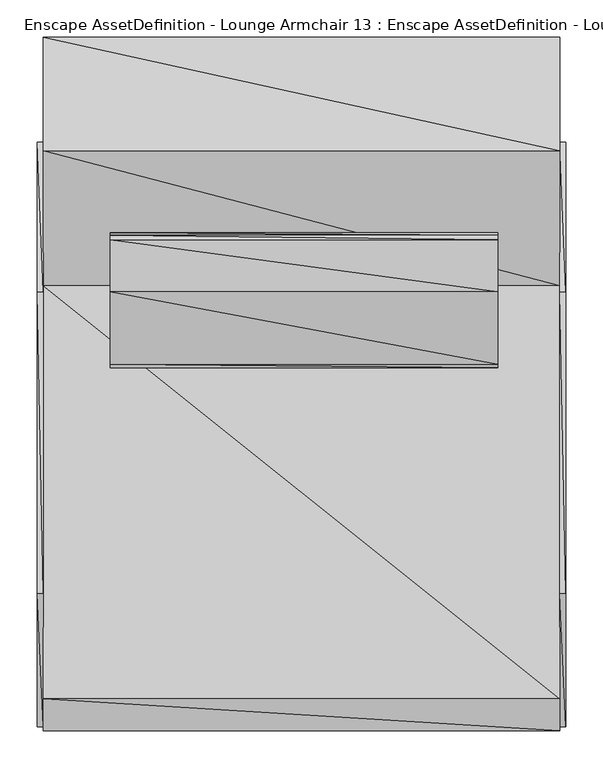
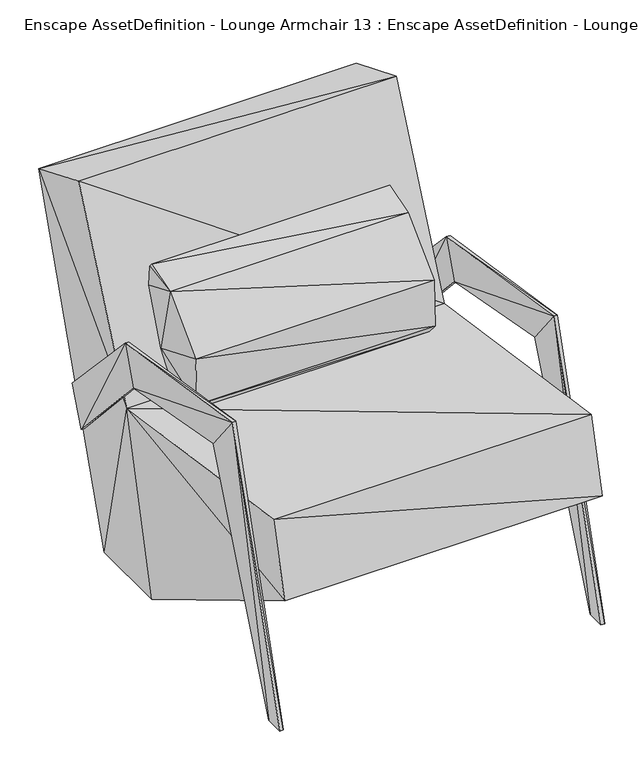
"""IFC4 building model written with IfcOpenShell, lengths in millimetres: geographic element geometry, Enscape AssetDefinition - Lounge Armchair 13 : Enscape AssetDefinition - Lounge Armchair 13."""

from ifc_helpers import new_model, si_unit, origin, place, context, project, spatial, faceted_brep, source, transform, mapped, element, save


def enscape_assetdefinition_lounge_armchair_13_enscape_2bcb44b3(model_context):
    return source(origin(), model_context, "Body", "Brep", [
        faceted_brep([(-348.8843441, 40.526554, 0.0), (344.0619707, 220.3112841, 0.0), (344.0619707, 40.526554, 0.0), (-348.8843441, 220.3112841, 0.0), (344.0609872, 468.7161148, 735.1576686), (344.0619707, 135.1372004, 383.7051392), (-348.8843441, -461.7738128, 301.4784455), (344.0609872, -461.7738128, 301.4784455), (-348.8843441, 135.1372004, 383.7051392), (-348.8843441, 468.7161148, 735.1576686), (344.0619707, 316.3796365, 798.2881069), (-348.8843441, 316.3796365, 798.2881069), (344.0609872, -419.2292392, 463.4215832), (-348.8843441, -419.2292392, 463.4215832)], [[[0, 1, 2]], [[3, 1, 0]], [[3, 4, 1]], [[4, 5, 1]], [[1, 5, 2]], [[6, 2, 7]], [[0, 2, 6]], [[2, 5, 7]], [[6, 8, 0]], [[0, 8, 3]], [[9, 4, 3]], [[3, 8, 9]], [[9, 10, 4]], [[10, 5, 4]], [[11, 10, 9]], [[9, 8, 11]], [[8, 12, 5]], [[13, 12, 8]], [[8, 5, 11]], [[13, 8, 6]], [[6, 7, 13]], [[13, 7, 12]], [[7, 5, 12]], [[11, 5, 10]]]),
        faceted_brep([(-259.2530847, 206.7237198, 593.6744213), (260.9979212, 202.841863, 639.2854452), (260.9979212, 206.7237198, 593.6744213), (-259.2530847, 202.841863, 639.2854452), (260.9979212, 197.0190555, 648.0186582), (260.9979212, 127.1483451, 626.6693473), (-259.2530847, 163.0536765, 475.2812982), (260.9979212, 163.0536765, 475.2812982), (-259.2530847, 127.1483451, 626.6693473), (-259.2530847, 197.0190555, 648.0186582), (260.9979212, 30.1045254, 529.625535), (-259.2530847, 109.679915, 404.4391215), (260.9979212, 109.679915, 404.4391215), (-259.2530847, 30.1045254, 529.625535), (-259.2530847, 25.252182, 426.7598689), (260.9979212, 25.252182, 426.7598689), (-259.2530847, 95.1238945, 391.8240666), (260.9979212, 95.1238945, 391.8240666), (-259.2530847, 48.5424213, 400.5572498), (260.9979212, 48.5424213, 400.5582333)], [[[0, 1, 2]], [[3, 1, 0]], [[3, 4, 1]], [[1, 5, 2]], [[4, 5, 1]], [[6, 2, 7]], [[0, 2, 6]], [[2, 5, 7]], [[6, 8, 0]], [[0, 8, 3]], [[9, 4, 3]], [[3, 8, 9]], [[9, 5, 4]], [[8, 10, 5]], [[8, 5, 9]], [[7, 5, 10]], [[11, 7, 12]], [[6, 7, 11]], [[7, 10, 12]], [[13, 8, 6]], [[14, 6, 11]], [[13, 6, 14]], [[13, 10, 8]], [[13, 15, 10]], [[12, 10, 15]], [[16, 12, 17]], [[11, 12, 16]], [[12, 15, 17]], [[18, 11, 16]], [[14, 11, 18]], [[14, 19, 15]], [[18, 19, 14]], [[14, 15, 13]], [[17, 15, 19]], [[18, 17, 19]], [[16, 17, 18]]]),
        faceted_brep([(-356.888175, 293.1624353, 241.7946607), (-348.8843441, 328.1593025, 327.9522061), (-348.8843441, 293.1624353, 241.7946607), (-356.888175, 328.1593025, 327.9522061), (-348.8843441, 127.3644418, 542.1856046), (-348.8843441, 97.4580199, 456.931442), (-356.888175, 97.4580199, 456.931442), (-356.888175, 127.3644418, 542.1856046), (-348.8843441, -277.3067951, 604.2935252), (-348.8843441, -205.80329, 512.2461319), (-356.888175, -205.80329, 512.2461319), (-356.888175, -277.3067951, 604.2935252), (-348.8843441, -456.5342665, 0.0950458), (-348.8843441, -415.6545103, 0.0950458), (-356.888175, -415.6545103, 0.0950458), (-356.888175, -456.5342665, 0.0950458)], [[[0, 1, 2]], [[3, 1, 0]], [[3, 4, 1]], [[1, 5, 2]], [[4, 5, 1]], [[6, 2, 5]], [[0, 2, 6]], [[0, 7, 3]], [[6, 7, 0]], [[7, 4, 3]], [[7, 8, 4]], [[4, 9, 5]], [[8, 9, 4]], [[10, 5, 9]], [[6, 5, 10]], [[6, 11, 7]], [[10, 11, 6]], [[11, 8, 7]], [[11, 12, 8]], [[8, 13, 9]], [[12, 13, 8]], [[14, 9, 13]], [[10, 9, 14]], [[10, 14, 11]], [[15, 12, 11]], [[11, 14, 15]], [[15, 13, 12]], [[14, 13, 15]]]),
        faceted_brep([(344.0609872, 293.1624353, 241.7946607), (352.0648479, 328.1593025, 327.9522061), (352.0648479, 293.1624353, 241.7946607), (344.0609872, 328.1593025, 327.9522061), (352.0648479, 127.3644418, 542.1856046), (352.0648479, 97.4580199, 456.931442), (344.0609872, 97.4580199, 456.931442), (344.0609872, 127.3644418, 542.1856046), (352.0648479, -277.3067951, 604.2935252), (352.0648479, -205.80329, 512.2461319), (344.0609872, -205.80329, 512.2461319), (344.0609872, -277.3067951, 604.2935252), (352.0648479, -456.5342665, 0.0950458), (352.0648479, -415.6545103, 0.0950458), (344.0609872, -415.6545103, 0.0950458), (344.0609872, -456.5342665, 0.0950458)], [[[0, 1, 2]], [[3, 1, 0]], [[3, 4, 1]], [[1, 5, 2]], [[4, 5, 1]], [[6, 2, 5]], [[0, 2, 6]], [[0, 7, 3]], [[6, 7, 0]], [[7, 4, 3]], [[7, 8, 4]], [[4, 9, 5]], [[8, 9, 4]], [[10, 5, 9]], [[6, 5, 10]], [[6, 11, 7]], [[10, 11, 6]], [[11, 8, 7]], [[11, 12, 8]], [[8, 13, 9]], [[12, 13, 8]], [[14, 9, 13]], [[10, 9, 14]], [[10, 14, 11]], [[15, 12, 11]], [[11, 14, 15]], [[15, 13, 12]], [[14, 13, 15]]]),
    ])


if __name__ == "__main__":
    model = new_model("IFC4")
    model_context = context("Model", 3, world=origin())
    ifc_project = project(units=[si_unit("LENGTHUNIT", "METRE", prefix="MILLI")], contexts=[model_context])
    site = spatial("IfcSite", under=ifc_project)
    building = spatial("IfcBuilding", under=site)
    placement = place(None, origin())
    enscape_assetdefinition_lounge_armchair_13_enscape_shape = enscape_assetdefinition_lounge_armchair_13_enscape_2bcb44b3(model_context)
    element("IfcGeographicElement", 1, ObjectType="Enscape AssetDefinition - Lounge Armchair 13 : Enscape AssetDefinition - Lounge Armchair 13", at=placement, inside=building, context=model_context, shape_type="MappedRepresentation", body=[
        mapped(enscape_assetdefinition_lounge_armchair_13_enscape_shape, transform((0.0, 0.0, 0.0), x_axis=(1.0, 0.0, 0.0), y_axis=(0.0, 1.0, 0.0), z_axis=(0.0, 0.0, 1.0))),
    ])
    save(model, "model.ifc")
